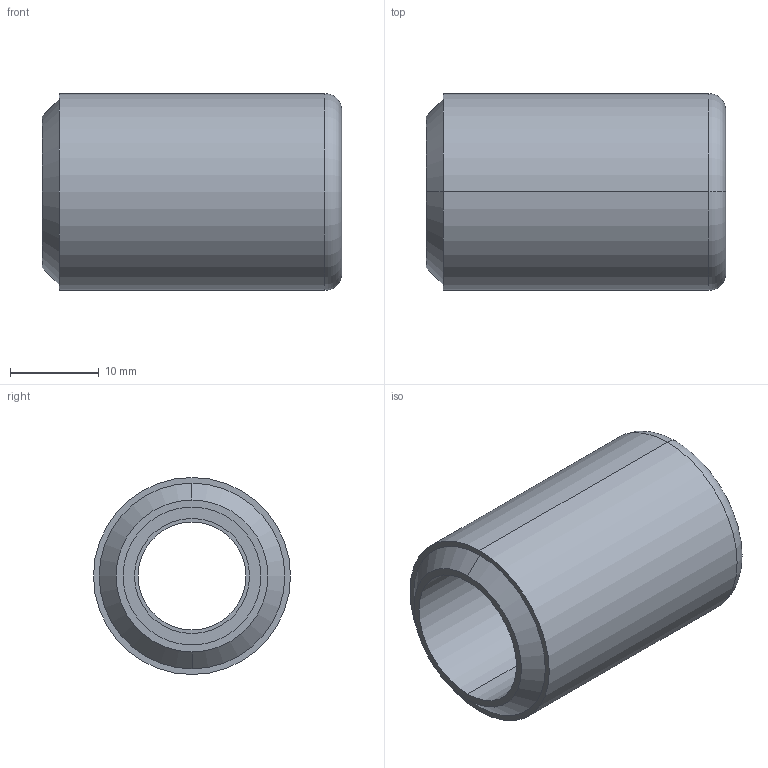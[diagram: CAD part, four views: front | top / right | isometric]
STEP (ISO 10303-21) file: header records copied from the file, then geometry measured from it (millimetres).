
FILE_DESCRIPTION (( 'STEP AP214' ), '1' );
FILE_NAME ('CR-INFV-01-02.STEP', '2020-12-10T16:56:59', ( '' ), ( '' ), 'SwSTEP 2.0', 'SolidWorks 2019', '' );
FILE_SCHEMA (( 'AUTOMOTIVE_DESIGN' ));
Length unit declared in the file: inch
Products named in the file (1): CR-INFV-01-02
Bounding box: 33.7 x 22.17 x 22.17 mm (x, y, z)
Volume: 7564.8 mm3; surface area: 4219.1 mm2
Topology: 1 solids, 1 shells, 20 faces, 40 edges, 26 vertices
Faces by surface type: cylinder 10, plane 6, cone 2, torus 2
Entity records: 840 total; most frequent: DIRECTION 110, CARTESIAN_POINT 87, ORIENTED_EDGE 80, AXIS2_PLACEMENT_3D 49, EDGE_CURVE 40, CIRCLE 28, EDGE_LOOP 26, VERTEX_POINT 26
